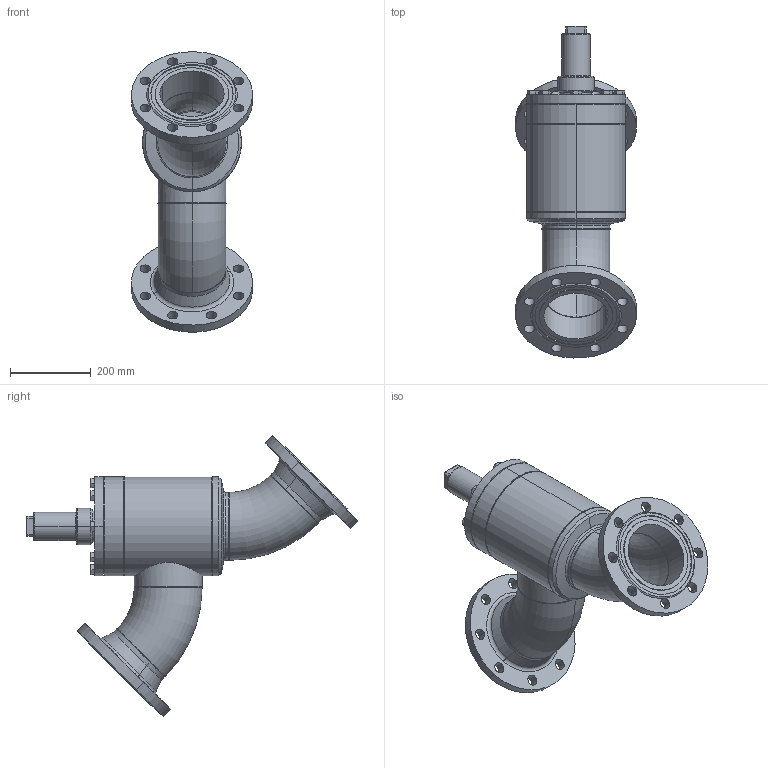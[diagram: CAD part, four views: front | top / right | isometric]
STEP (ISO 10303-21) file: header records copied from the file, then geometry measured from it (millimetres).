
FILE_DESCRIPTION (( 'STEP AP214' ), '1' );
FILE_NAME ('AVR26320D21-DN150_DIN-FL-N_PS40.STEP', '2006-04-27T13:39:06', ( 'Herr Grams' ), ( 'AWP GmbH' ), 'SwSTEP 2.0', 'SolidWorks 2002296', '' );
FILE_SCHEMA (( 'AUTOMOTIVE_DESIGN' ));
Length unit declared in the file: millimetre
Products named in the file (19): AVR26320D21-DN150_DIN-FL-N_PS40; AVR26300E21_Deck+Schr-DN150_Standard; Deckel26300E21-DN150_Standard; Sechskantschraube-DIN933_M16x 45; Gehäuse-kpl16320-DN150_DIN_PS40_Standard; Gehäuse-kpl16300-DN150_R1_Standard; Gehäuse16300-DN150_Standard; Rohrstutzen-A16300-DN150_R1_Standard; Rohrbogen 45°_Rohrbogen-DN150-45°; bead-DN150-3_Standard; bead-DN150-4_Standard; bead-DN150-2_Standard; bead-DN150-1_Standard; Boden16300-DN150_Standard; Kopfstück16300-DN150_Standard; Flansch-DIN-Nut_PS40_DIN-Flansch-DN150_PS40-Nut; bead-DN150-7_Standard; bead-DN150-6_Standard; Kappe16402_DN125-150_Standard
Assembly tree (29 placements, depth 4):
  AVR26320D21-DN150_DIN-FL-N_PS40
    AVR26300E21_Deck+Schr-DN150_Standard
      Deckel26300E21-DN150_Standard
      Sechskantschraube-DIN933_M16x 45  x8
    Kappe16402_DN125-150_Standard
    Gehäuse-kpl16320-DN150_DIN_PS40_Standard
      Gehäuse-kpl16300-DN150_R1_Standard
        Rohrbogen 45°_Rohrbogen-DN150-45°  x2
        Boden16300-DN150_Standard
        bead-DN150-2_Standard
        bead-DN150-3_Standard
        Kopfstück16300-DN150_Standard
        Rohrstutzen-A16300-DN150_R1_Standard
        Gehäuse16300-DN150_Standard
        bead-DN150-4_Standard  x2
        bead-DN150-1_Standard  x2
      Flansch-DIN-Nut_PS40_DIN-Flansch-DN150_PS40-Nut  x2
      bead-DN150-7_Standard
      bead-DN150-6_Standard
Bounding box: 299.71 x 823.01 x 695.17 mm (x, y, z)
Volume: 9666617 mm3; surface area: 1792827.9 mm2
Topology: 26 solids, 26 shells, 468 faces, 1032 edges, 626 vertices
Faces by surface type: cylinder 143, plane 135, cone 134, bspline 32, torus 24
Entity records: 11196 total; most frequent: CARTESIAN_POINT 4850, DIRECTION 1178, ORIENTED_EDGE 1056, EDGE_CURVE 528, AXIS2_PLACEMENT_3D 518, VERTEX_POINT 328, EDGE_LOOP 302, CIRCLE 270
